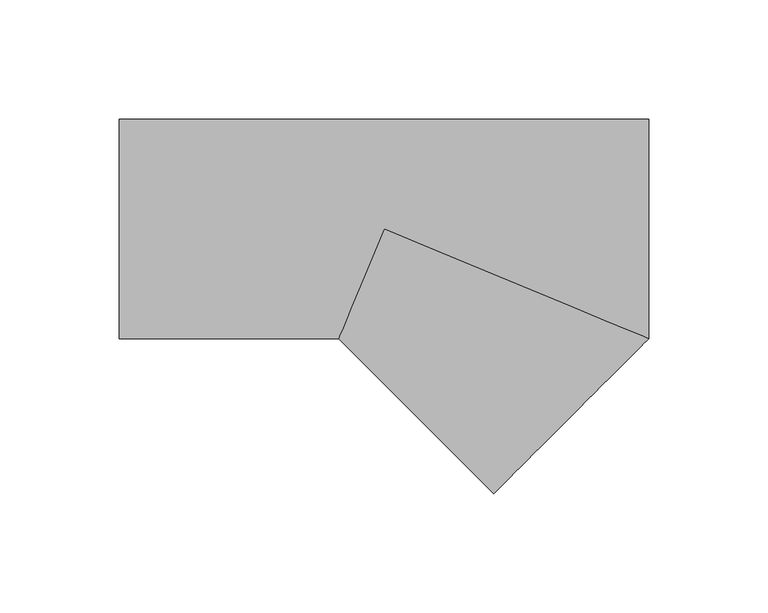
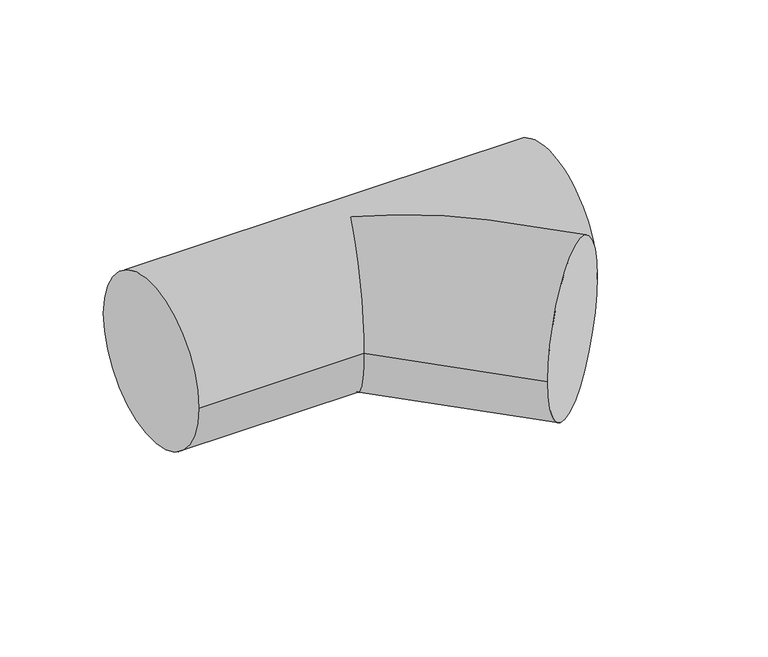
"""IFC4 building model written with IfcOpenShell, lengths in millimetres: pipe fitting geometry, M_Te - Genérica : Estándar."""

from ifc_helpers import new_model, si_unit, frame, origin, place, context, project, spatial, circle_curve, ellipse_curve, source, transform, mapped, element, save
from ifc_brep_helpers import plane_surface, cylinder_surface, advanced_brep


def pipe_fitting_2c972f74(model_context):
    return source(origin(), model_context, "Body", "AdvancedBrep", [
        advanced_brep(
        [(-111.1469356, -46.0375, 0.0), (-111.1469356, 46.0375, 0.0), (111.1469356, -46.0375, 0.0), (111.1469356, 46.0375, 0.0), (-19.0689145, -46.0375, 0.0), (0.0, 0.0, 46.0375), (0.0, 0.0, -46.0375), (46.0411468, -111.145425, 0.0)],
        [
            (0, 1, circle_curve(frame((-111.1469356, 0.0, 0.0), z_axis=(-1.0, 0.0, 0.0), x_axis=(0.0, 1.0, 0.0)), 46.0375)),
            (1, 0, circle_curve(frame((-111.1469356, 0.0, 0.0), z_axis=(-1.0, 0.0, 0.0), x_axis=(0.0, 1.0, 0.0)), 46.0375)),
            (2, 3, circle_curve(frame((111.1469356, 0.0, 0.0), z_axis=(1.0, 0.0, 0.0), x_axis=(0.0, 1.0, 0.0)), 46.0375)),
            (3, 2, circle_curve(frame((111.1469356, 0.0, 0.0), z_axis=(1.0, 0.0, 0.0), x_axis=(0.0, 1.0, 0.0)), 46.0375)),
            (0, 4),
            (4, 5, ellipse_curve(frame((0.0, 0.0, 0.0), z_axis=(-0.9238826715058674, 0.3826758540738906, 0.0), x_axis=(-0.3826758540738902, -0.9238826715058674, 0.0)), 49.8304616, 46.0375)),
            (5, 2, ellipse_curve(frame((0.0, 0.0, 0.0), z_axis=(0.3826758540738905, 0.9238826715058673, 0.0), x_axis=(-0.9238826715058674, 0.38267585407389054, 0.0)), 120.3041674, 46.0375)),
            (3, 1),
            (2, 6, ellipse_curve(frame((0.0, 0.0, 0.0), z_axis=(0.3826758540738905, 0.9238826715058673, 0.0), x_axis=(-0.9238826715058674, 0.38267585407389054, 0.0)), 120.3041674, 46.0375)),
            (6, 4, ellipse_curve(frame((0.0, 0.0, 0.0), z_axis=(-0.9238826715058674, 0.3826758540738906, 0.0), x_axis=(-0.3826758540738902, -0.9238826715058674, 0.0)), 49.8304616, 46.0375)),
            (7, 2, circle_curve(frame((78.5940412, -78.5914625, 0.0), z_axis=(0.7071183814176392, -0.7070951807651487, 0.0), x_axis=(0.7070951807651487, 0.7071183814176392, 0.0)), 46.0375)),
            (2, 7, circle_curve(frame((78.5940412, -78.5914625, 0.0), z_axis=(0.7071183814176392, -0.7070951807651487, 0.0), x_axis=(0.7070951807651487, 0.7071183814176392, 0.0)), 46.0375)),
            (4, 7),
        ],
        [
            plane_surface(frame((-111.1469356, 0.0, 0.0), z_axis=(-1.0, 0.0, 0.0), x_axis=(0.0, 0.0, 1.0))),
            plane_surface(frame((111.1469356, 0.0, 0.0), z_axis=(1.0, 0.0, 0.0), x_axis=(0.0, 0.0, 1.0))),
            cylinder_surface(frame((-111.1469356, 0.0, 0.0), z_axis=(-1.0, 0.0, 0.0), x_axis=(0.0, 1.0, 0.0)), 46.0375),
            plane_surface(frame((78.5940412, -78.5914625, 0.0), z_axis=(0.7071183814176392, -0.7070951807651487, 0.0), x_axis=(0.0, 0.0, 1.0))),
            cylinder_surface(frame((0.0, 0.0, 0.0), z_axis=(-0.7071183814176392, 0.7070951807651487, 0.0), x_axis=(0.7070951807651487, 0.7071183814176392, 0.0)), 46.0375),
        ],
        [
            (0, [[1, 2]]),
            (1, [[3, 4]]),
            (2, [[-1, 5, 6, 7, -4, 8]]),
            (2, [[-2, -8, -3, 9, 10, -5]]),
            (3, [[11, 12]]),
            (4, [[-12, -7, -6, 13]]),
            (4, [[-11, -13, -10, -9]]),
        ],
    ),
    ])


if __name__ == "__main__":
    model = new_model("IFC4")
    model_context = context("Model", 3, world=origin())
    ifc_project = project(units=[si_unit("LENGTHUNIT", "METRE", prefix="MILLI")], contexts=[model_context])
    site = spatial("IfcSite", under=ifc_project)
    building = spatial("IfcBuilding", under=site)
    placement = place(None, origin())
    pipe_fitting_shape = pipe_fitting_2c972f74(model_context)
    element("IfcPipeFitting", 1, ObjectType="M_Te - Genérica : Estándar", at=placement, inside=building, context=model_context, shape_type="MappedRepresentation", body=[
        mapped(pipe_fitting_shape, transform((0.0, 0.0, 0.0), x_axis=(1.0, 0.0, 0.0), y_axis=(0.0, 1.0, 0.0), z_axis=(0.0, 0.0, 1.0))),
    ])
    save(model, "model.ifc")
